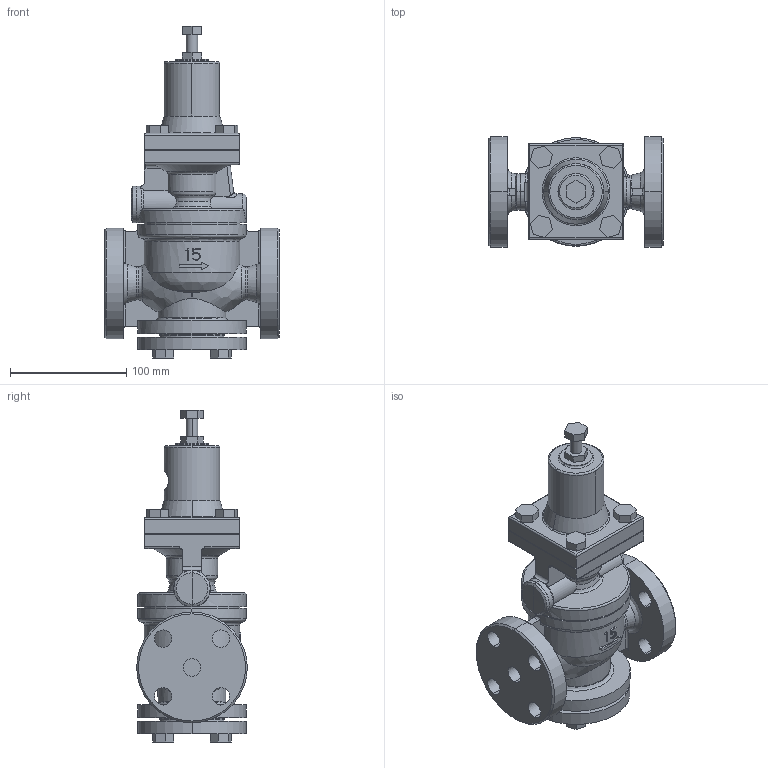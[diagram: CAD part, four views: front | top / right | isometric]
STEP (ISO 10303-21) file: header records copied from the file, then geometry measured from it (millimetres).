
FILE_DESCRIPTION( (''), '2;1');
FILE_NAME ('PC1015.8036.GP-1000(15A)JIS10K3D_13142.stp','2024-08-01T12:18:38',(''),(''),'spGate 19.8.4 (****-****-****-****)','','');
FILE_SCHEMA (('AUTOMOTIVE_DESIGN'));
Length unit declared in the file: millimetre
Bounding box: 150 x 95 x 285 mm (x, y, z)
Volume: 1292372.4 mm3; surface area: 151486.4 mm2
Topology: 1 solids, 1 shells, 315 faces, 826 edges, 539 vertices
Faces by surface type: plane 143, cylinder 97, bspline 75
Entity records: 18650 total; most frequent: CARTESIAN_POINT 5045, ORIENTED_EDGE 1648, DIRECTION 1272, COLOUR_RGB 1140, PRESENTATION_STYLE_ASSIGNMENT 1140, STYLED_ITEM 1140, EDGE_CURVE 824, DRAUGHTING_PRE_DEFINED_CURVE_FONT 824
